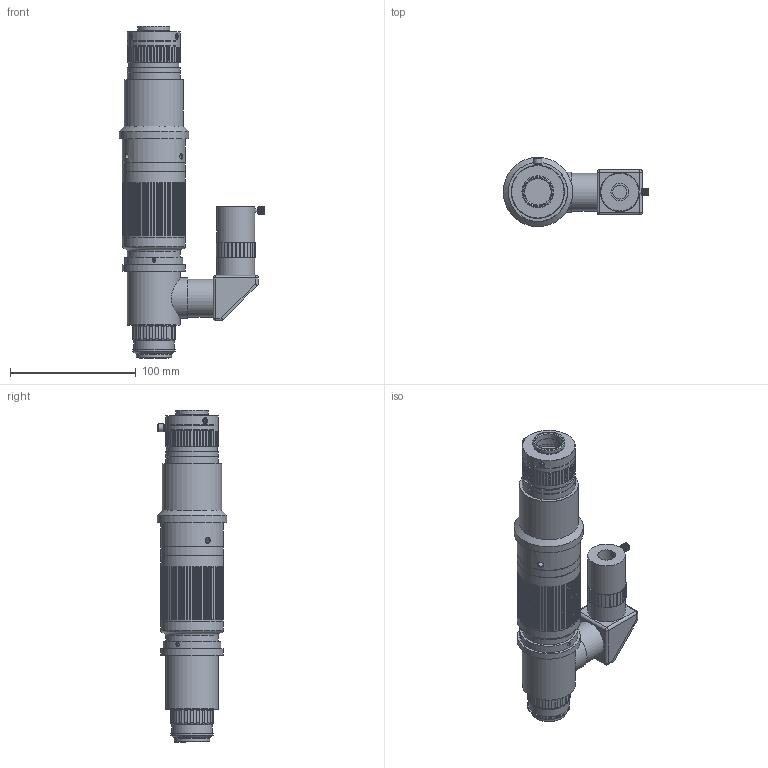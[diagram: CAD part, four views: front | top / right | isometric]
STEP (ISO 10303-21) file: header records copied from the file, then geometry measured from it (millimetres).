
FILE_DESCRIPTION(('STEP AP214'),'1');
FILE_NAME('SDS-KZ.stp','2026-03-26T07:29:33',(' '),(' '),'Spatial InterOp 3D',' ',' ');
FILE_SCHEMA(('AUTOMOTIVE_DESIGN { 1 0 10303 214 1 1 1 1 }'));
Length unit declared in the file: metre
Products named in the file (2): SDS-KZ; Component1
Assembly tree (1 placements, depth 2):
  SDS-KZ
    Component1
Bounding box: 115.5 x 55 x 263.5 mm (x, y, z)
Volume: 439905.4 mm3; surface area: 77371.8 mm2
Topology: 3 solids, 3 shells, 1717 faces, 4083 edges, 2541 vertices
Faces by surface type: cylinder 743, sphere 483, plane 428, cone 53, bspline 7, torus 2, offset 1
Full cylindrical faces by diameter (mm): 3 x6, 4 x6, 5 x1, 6.3 x1, 11 x1, 14 x1, 21 x2, 22 x1, 23 x1, 24 x1, 24.2 x1, 25 x4, 25.4 x1, 26 x3, 26.9 x1, 27 x1, 28 x1, 30 x4, 32 x2, 32.2 x1, 33.7 x1, 34 x3, 39.8 x1, 42 x7, 46 x1, 47 x1, 50 x5, 55 x1
Entity records: 88450 total; most frequent: CARTESIAN_POINT 17442, ORIENTED_EDGE 7822, DIRECTION 7628, STYLED_ITEM 5630, PRESENTATION_STYLE_ASSIGNMENT 5630, COLOUR_RGB 5630, EDGE_CURVE 3911, CURVE_STYLE 3911
